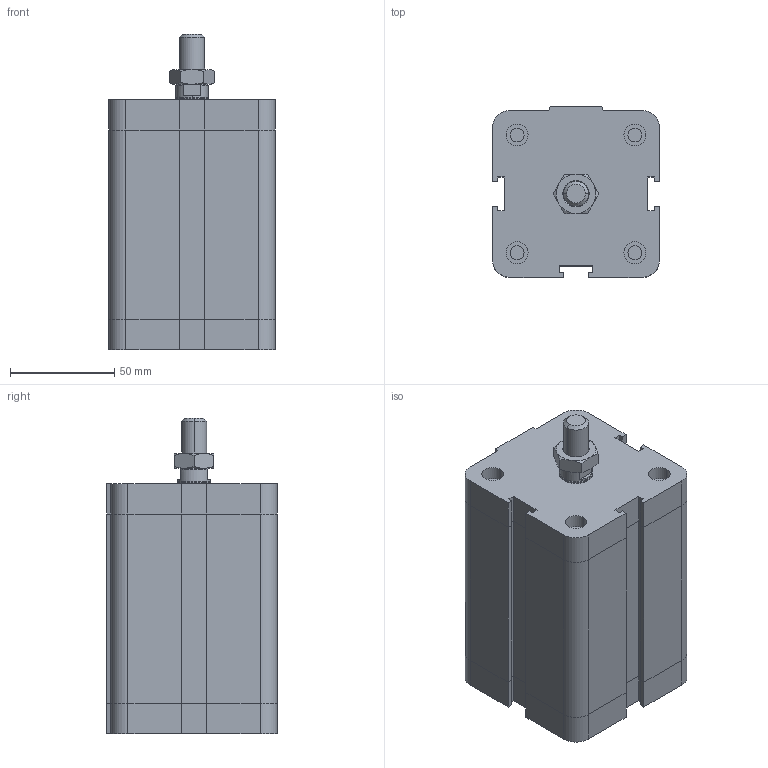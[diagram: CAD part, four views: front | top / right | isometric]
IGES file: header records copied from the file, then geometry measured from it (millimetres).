
Global section: file name: No Iges File Name specified; native system: Autodesk Inventor 2009; preprocessor: AutoDesk Inventor Iges Exporter R2009; author: rivolro1; date: 20081219.160622; units: millimetre
Bounding box: 80 x 82 x 151.5 mm (x, y, z)
Volume: 735252.8 mm3; surface area: 72444.2 mm2
Topology: 3 solids, 3 shells, 216 faces, 472 edges, 282 vertices
Faces by surface type: plane 121, bspline 37, cylinder 20, cone 20, revolution 18
